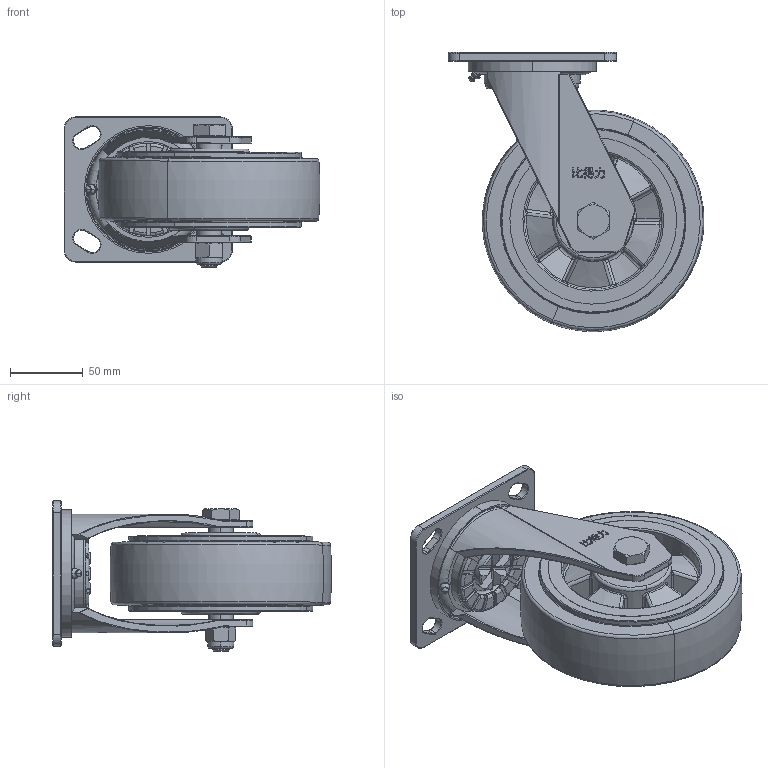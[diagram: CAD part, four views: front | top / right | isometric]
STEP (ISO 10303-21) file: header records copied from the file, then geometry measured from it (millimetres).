
FILE_DESCRIPTION (( 'STEP AP203' ), '1' );
FILE_NAME ('6寸重载型无刹车活动脚轮.STEP', '2023-02-22T09:41:06', ( 'amidn' ), ( '' ), 'SwSTEP 2.0', 'SolidWorks 2018', '' );
FILE_SCHEMA (( 'CONFIG_CONTROL_DESIGN' ));
Length unit declared in the file: millimetre
Products named in the file (10): high strength hex head bolt_din_DIN 6914 - M12 x 90 x 23-S; 5寸重载型活动安装架; 5渡笭婥倰 魂雄粣; 6寸重载型无刹车活动脚轮; 6渡傀伎謫; 5寸重载型活动轴圈2; 5渡笭婥倰 粣杶; 6寸重载型无刹车活动轮架; 5寸重载型活动轴圈; prevailing trq nut style 1 insert fine_din_DIN EN ISO 10512 - M12x1.5 - S
Assembly tree (9 placements, depth 2):
  6寸重载型无刹车活动脚轮
    6寸重载型无刹车活动轮架
    5寸重载型活动安装架
    5渡笭婥倰 粣杶
    5寸重载型活动轴圈
    5寸重载型活动轴圈2
    6渡傀伎謫
    5渡笭婥倰 魂雄粣
    prevailing trq nut style 1 insert fine_din_DIN EN ISO 10512 - M12x1.5 - S
    high strength hex head bolt_din_DIN 6914 - M12 x 90 x 23-S
Bounding box: 176.34 x 192.33 x 103.46 mm (x, y, z)
Volume: 895504.7 mm3; surface area: 210678.1 mm2
Topology: 10 solids, 10 shells, 1079 faces, 2578 edges, 1538 vertices
Faces by surface type: cylinder 275, plane 253, torus 181, bspline 162, cone 146, sphere 62
Entity records: 40216 total; most frequent: CARTESIAN_POINT 15305, ORIENTED_EDGE 5076, DIRECTION 4979, EDGE_CURVE 2538, AXIS2_PLACEMENT_3D 2087, VERTEX_POINT 1518, CIRCLE 1158, EDGE_LOOP 1146
